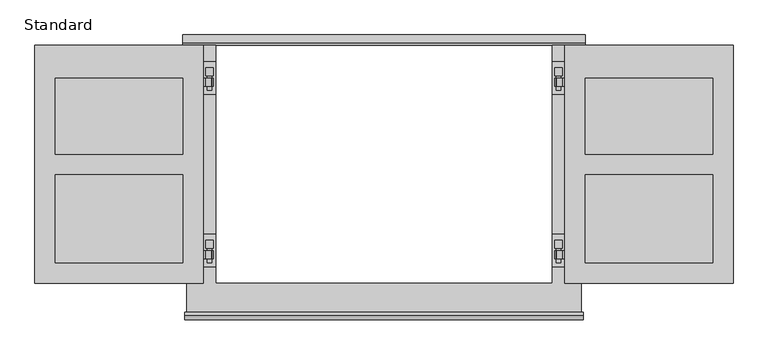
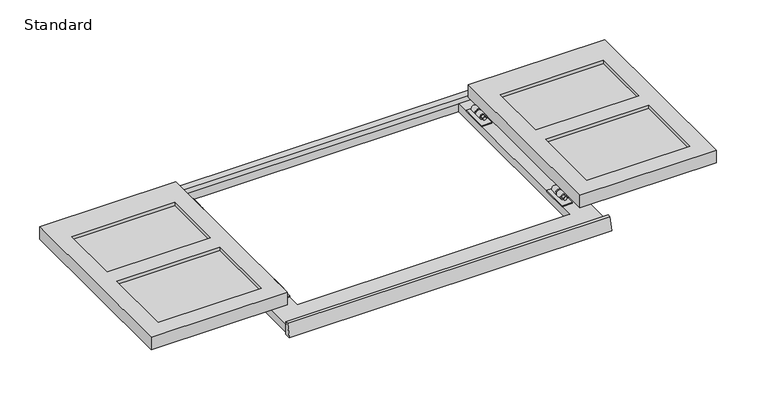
"""IFC4 building model written with IfcOpenShell, lengths in millimetres: proxy geometry, Shutters-Trim-Window-Exterior-Flat-Decorative_Drip_Cap-Cape_Cod : Standard."""

from ifc_helpers import new_model, si_unit, point, frame, frame_2d, origin, origin_with_axes, place, context, project, spatial, polyline, circle_curve, trimmed, segment, composite_curve, outline, extrude, source, transform, mapped, element, save
from ifc_brep_helpers import plane_surface, cylinder_surface, revolved_surface, advanced_brep


def standard_8dc5469e(model_context):
    return source(origin(), model_context, "Body", "SolidModel", [
        extrude(outline(polyline([(-1079.5, 0.0), (-1079.5, 736.6), (-558.8, 736.6), (-558.8, 0.0), (-1079.5, 0.0)]), holes=[polyline([(-1016.0, 63.5), (-622.3, 63.5), (-622.3, 336.55), (-1016.0, 336.55), (-1016.0, 63.5)]), polyline([(-622.3, 400.05), (-622.3, 635.0), (-1016.0, 635.0), (-1016.0, 400.05), (-622.3, 400.05)])]), frame((0.0, 0.0, 44.45), z_axis=(0.0, 0.0, 1.0), x_axis=(1.0, 0.0, 0.0)), (0.0, 0.0, 1.0), 50.8),
        extrude(outline(polyline([(-1016.0, 63.5), (-1016.0, 336.55), (-622.3, 336.55), (-622.3, 63.5), (-1016.0, 63.5)])), frame((0.0, 0.0, 57.15), z_axis=(0.0, 0.0, 1.0), x_axis=(1.0, 0.0, 0.0)), (0.0, 0.0, 1.0), 25.4),
        extrude(outline(polyline([(-622.3, 400.05), (-1016.0, 400.05), (-1016.0, 635.0), (-622.3, 635.0), (-622.3, 400.05)])), frame((0.0, 0.0, 57.15), z_axis=(0.0, 0.0, 1.0), x_axis=(1.0, 0.0, 0.0)), (0.0, 0.0, 1.0), 25.4),
        extrude(outline(polyline([(1079.5, 0.0), (558.8, 0.0), (558.8, 736.6), (1079.5, 736.6), (1079.5, 0.0)]), holes=[polyline([(1016.0, 63.5), (1016.0, 336.55), (622.3, 336.55), (622.3, 63.5), (1016.0, 63.5)]), polyline([(622.3, 400.05), (1016.0, 400.05), (1016.0, 635.0), (622.3, 635.0), (622.3, 400.05)])]), frame((0.0, 0.0, 44.45), z_axis=(0.0, 0.0, 1.0), x_axis=(1.0, 0.0, 0.0)), (0.0, 0.0, 1.0), 50.8),
        extrude(outline(polyline([(1016.0, 63.5), (622.3, 63.5), (622.3, 336.55), (1016.0, 336.55), (1016.0, 63.5)])), frame((0.0, 0.0, 57.15), z_axis=(0.0, 0.0, 1.0), x_axis=(1.0, 0.0, 0.0)), (0.0, 0.0, 1.0), 25.4),
        extrude(outline(polyline([(622.3, 400.05), (622.3, 635.0), (1016.0, 635.0), (1016.0, 400.05), (622.3, 400.05)])), frame((0.0, 0.0, 57.15), z_axis=(0.0, 0.0, 1.0), x_axis=(1.0, 0.0, 0.0)), (0.0, 0.0, 1.0), 25.4),
        extrude(outline(polyline([(-558.8, 584.2), (-558.8, 685.8), (-520.7, 685.8), (-520.7, 584.2), (-558.8, 584.2)])), frame((0.0, 0.0, 31.75), z_axis=(0.0, 0.0, 1.0), x_axis=(1.0, 0.0, 0.0)), (0.0, 0.0, 1.0), 4.7625),
        advanced_brep(
        [(-604.8375, 596.9, 44.45), (-604.8375, 596.9, 39.6875), (-579.374, 596.9, 39.6875), (-579.374, 596.9, 44.45), (-604.8375, 647.7, 39.6875), (-604.8375, 647.7, 44.45), (-579.374, 647.7, 44.45), (-579.374, 647.7, 39.6875), (-579.374, 635.0, 39.6875), (-539.75, 635.0, 39.6875), (-539.75, 609.6, 39.6875), (-579.374, 609.6, 39.6875), (-579.374, 609.6, 44.45), (-539.75, 609.6, 44.45), (-539.75, 635.0, 44.45), (-579.374, 635.0, 44.45), (-546.1, 635.0, 50.8), (-546.1, 609.6, 50.8), (-546.1, 635.0, 46.0375), (-546.1, 609.6, 46.0375), (-550.8625, 635.0, 46.0375), (-550.8625, 609.6, 46.0375), (-550.8625, 635.0, 50.8), (-550.8625, 609.6, 50.8)],
        [
            (0, 1),
            (1, 2),
            (2, 3),
            (3, 0),
            (4, 5),
            (5, 6),
            (6, 7),
            (7, 4),
            (1, 4),
            (7, 8),
            (8, 9),
            (9, 10),
            (10, 11),
            (11, 2),
            (0, 5),
            (3, 12),
            (12, 13),
            (13, 14),
            (14, 15),
            (15, 6),
            (16, 14, circle_curve(frame((-539.75, 635.0, 50.8), z_axis=(0.0, 1.0, 0.0), x_axis=(1.0, 0.0, 0.0)), 6.35)),
            (13, 17, circle_curve(frame((-539.75, 609.6, 50.8), z_axis=(0.0, -1.0, 0.0), x_axis=(1.0, 0.0, 0.0)), 6.35)),
            (17, 16),
            (18, 16),
            (17, 19),
            (19, 18),
            (20, 18),
            (19, 21),
            (21, 20),
            (22, 20),
            (21, 23),
            (23, 22),
            (9, 22, circle_curve(frame((-539.75, 635.0, 50.8), z_axis=(0.0, -1.0, 0.0), x_axis=(1.0, 0.0, 0.0)), 11.1125)),
            (23, 10, circle_curve(frame((-539.75, 609.6, 50.8), z_axis=(0.0, 1.0, 0.0), x_axis=(1.0, 0.0, 0.0)), 11.1125)),
            (8, 15),
            (12, 11),
        ],
        [
            plane_surface(frame((-539.75, 596.9, 50.8), z_axis=(0.0, -1.0, 0.0), x_axis=(0.0, 0.0, 1.0))),
            plane_surface(frame((-539.75, 647.7, 50.8), z_axis=(0.0, 1.0, 0.0), x_axis=(0.0, 0.0, 1.0))),
            plane_surface(frame((-604.8375, 596.9, 39.6875), z_axis=(0.0, 0.0, -1.0), x_axis=(0.0, 1.0, 0.0))),
            plane_surface(frame((-604.8375, 596.9, 44.45), z_axis=(-1.0, 0.0, 0.0), x_axis=(0.0, 1.0, 0.0))),
            plane_surface(frame((-539.75, 596.9, 44.45), z_axis=(0.0, 0.0, 1.0), x_axis=(0.0, 1.0, 0.0))),
            revolved_surface(polyline([(-533.4, 635.0, 50.8), (-533.4, 609.6, 50.8)]), (-539.75, 596.9, 50.8), (0.0, 1.0, 0.0)),
            plane_surface(frame((-546.1, 596.9, 46.0375), z_axis=(1.0, 0.0, 0.0), x_axis=(0.0, 1.0, 0.0))),
            plane_surface(frame((-550.8625, 596.9, 46.0375), z_axis=(0.0, 0.0, -1.0), x_axis=(0.0, 1.0, 0.0))),
            plane_surface(frame((-550.8625, 596.9, 50.8), z_axis=(-1.0, 0.0, 0.0), x_axis=(0.0, 1.0, 0.0))),
            cylinder_surface(frame((-539.75, 596.9, 50.8), z_axis=(0.0, -1.0, 0.0), x_axis=(1.0, 0.0, 0.0)), 11.1125),
            plane_surface(frame((-539.75, 635.0, 50.8), z_axis=(0.0, 1.0, 0.0), x_axis=(0.0, 0.0, 1.0))),
            plane_surface(frame((-579.374, 635.0, 44.45), z_axis=(1.0, 0.0, 0.0), x_axis=(0.0, 1.0, 0.0))),
            plane_surface(frame((-539.75, 609.6, 50.8), z_axis=(0.0, -1.0, 0.0), x_axis=(0.0, 0.0, 1.0))),
            plane_surface(frame((-579.374, 596.9, 44.45), z_axis=(1.0, 0.0, 0.0), x_axis=(0.0, 1.0, 0.0))),
        ],
        [
            (0, [[1, 2, 3, 4]]),
            (1, [[5, 6, 7, 8]]),
            (2, [[9, -8, 10, 11, 12, 13, 14, -2]]),
            (3, [[-1, 15, -5, -9]]),
            (4, [[-15, -4, 16, 17, 18, 19, 20, -6]]),
            (5, [[21, -18, 22, 23]]),
            (6, [[24, -23, 25, 26]]),
            (7, [[27, -26, 28, 29]]),
            (8, [[30, -29, 31, 32]]),
            (9, [[33, -32, 34, -12]]),
            (10, [[35, -19, -21, -24, -27, -30, -33, -11]]),
            (11, [[-35, -10, -7, -20]]),
            (12, [[36, -13, -34, -31, -28, -25, -22, -17]]),
            (13, [[-36, -16, -3, -14]]),
        ],
    ),
        advanced_brep(
        [(-542.13125, 641.35, 36.5125), (-537.36875, 641.35, 36.5125), (-537.36875, 641.35, 39.945632), (-542.13125, 641.35, 39.945632), (-533.4, 641.35, 50.8), (-546.1, 641.35, 50.8), (-542.13125, 666.75, 36.5125), (-542.13125, 666.75, 39.945632), (-537.36875, 666.75, 39.945632), (-537.36875, 666.75, 36.5125), (-546.1, 596.9, 50.8), (-533.4, 596.9, 50.8)],
        [
            (0, 1),
            (1, 2),
            (2, 3, circle_curve(frame((-539.75, 641.35, 50.8), z_axis=(0.0, -1.0, 0.0), x_axis=(1.0, 0.0, 0.0)), 11.1125)),
            (3, 0),
            (4, 5, circle_curve(frame((-539.75, 641.35, 50.8), z_axis=(0.0, 1.0, 0.0), x_axis=(1.0, 0.0, 0.0)), 6.35)),
            (5, 4, circle_curve(frame((-539.75, 641.35, 50.8), z_axis=(0.0, 1.0, 0.0), x_axis=(1.0, 0.0, 0.0)), 6.35)),
            (6, 7),
            (7, 8, circle_curve(frame((-539.75, 666.75, 50.8), z_axis=(0.0, 1.0, 0.0), x_axis=(1.0, 0.0, 0.0)), 11.1125)),
            (8, 9),
            (9, 6),
            (3, 7),
            (6, 0),
            (9, 1),
            (8, 2),
            (10, 11, circle_curve(frame((-539.75, 596.9, 50.8), z_axis=(0.0, -1.0, 0.0), x_axis=(1.0, 0.0, 0.0)), 6.35)),
            (11, 10, circle_curve(frame((-539.75, 596.9, 50.8), z_axis=(0.0, -1.0, 0.0), x_axis=(1.0, 0.0, 0.0)), 6.35)),
            (10, 5),
            (4, 11),
        ],
        [
            plane_surface(frame((-537.36875, 641.35, 36.5125), z_axis=(0.0, -1.0, 0.0), x_axis=(1.0, 0.0, 6.23955382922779e-12))),
            plane_surface(frame((-537.36875, 666.75, 36.5125), z_axis=(0.0, 1.0, 0.0), x_axis=(-1.0, 0.0, -6.23955382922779e-12))),
            plane_surface(frame((-542.13125, 641.35, 39.945632), z_axis=(-1.0, 0.0, 0.0), x_axis=(0.0, 1.0, 0.0))),
            plane_surface(frame((-542.13125, 641.35, 36.5125), z_axis=(6.23955382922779e-12, 0.0, -1.0), x_axis=(0.0, 1.0, 0.0))),
            plane_surface(frame((-537.36875, 641.35, 36.5125), z_axis=(1.0, 0.0, 0.0), x_axis=(0.0, 1.0, 0.0))),
            cylinder_surface(frame((-539.75, 666.75, 50.8), z_axis=(0.0, -1.0, 0.0), x_axis=(1.0, 0.0, 0.0)), 11.1125),
            plane_surface(frame((-533.4, 596.9, 50.8), z_axis=(0.0, -1.0, 0.0), x_axis=(0.0, 0.0, 1.0))),
            cylinder_surface(frame((-539.75, 666.75, 50.8), z_axis=(0.0, -1.0, 0.0), x_axis=(1.0, 0.0, 0.0)), 6.35),
        ],
        [
            (0, [[1, 2, 3, 4], [5, 6]]),
            (1, [[7, 8, 9, 10]]),
            (2, [[-4, 11, -7, 12]]),
            (3, [[-1, -12, -10, 13]]),
            (4, [[-2, -13, -9, 14]]),
            (5, [[-3, -14, -8, -11]]),
            (6, [[15, 16]]),
            (7, [[-15, 17, -5, 18]]),
            (7, [[-16, -18, -6, -17]]),
        ],
    ),
        extrude(outline(polyline([(558.8, 584.2), (520.7, 584.2), (520.7, 685.8), (558.8, 685.8), (558.8, 584.2)])), frame((0.0, 0.0, 31.75), z_axis=(0.0, 0.0, 1.0), x_axis=(1.0, 0.0, 0.0)), (0.0, 0.0, 1.0), 4.7625),
        advanced_brep(
        [(604.8375, 596.9, 44.45), (579.374, 596.9, 44.45), (579.374, 596.9, 39.6875), (604.8375, 596.9, 39.6875), (604.8375, 647.7, 39.6875), (579.374, 647.7, 39.6875), (579.374, 647.7, 44.45), (604.8375, 647.7, 44.45), (579.374, 609.6, 39.6875), (539.75, 609.6, 39.6875), (539.75, 635.0, 39.6875), (579.374, 635.0, 39.6875), (579.374, 635.0, 44.45), (539.75, 635.0, 44.45), (539.75, 609.6, 44.45), (579.374, 609.6, 44.45), (546.1, 635.0, 50.8), (546.1, 609.6, 50.8), (546.1, 635.0, 46.0375), (546.1, 609.6, 46.0375), (550.8625, 635.0, 46.0375), (550.8625, 609.6, 46.0375), (550.8625, 635.0, 50.8), (550.8625, 609.6, 50.8)],
        [
            (0, 1),
            (1, 2),
            (2, 3),
            (3, 0),
            (4, 5),
            (5, 6),
            (6, 7),
            (7, 4),
            (2, 8),
            (8, 9),
            (9, 10),
            (10, 11),
            (11, 5),
            (4, 3),
            (7, 0),
            (6, 12),
            (12, 13),
            (13, 14),
            (14, 15),
            (15, 1),
            (16, 17),
            (17, 14, circle_curve(frame((539.75, 609.6, 50.8), z_axis=(0.0, -1.0, 0.0), x_axis=(-1.0, 0.0, 0.0)), 6.35)),
            (13, 16, circle_curve(frame((539.75, 635.0, 50.8), z_axis=(0.0, 1.0, 0.0), x_axis=(-1.0, 0.0, 0.0)), 6.35)),
            (18, 19),
            (19, 17),
            (16, 18),
            (20, 21),
            (21, 19),
            (18, 20),
            (22, 23),
            (23, 21),
            (20, 22),
            (9, 23, circle_curve(frame((539.75, 609.6, 50.8), z_axis=(0.0, 1.0, 0.0), x_axis=(-1.0, 0.0, 0.0)), 11.1125)),
            (22, 10, circle_curve(frame((539.75, 635.0, 50.8), z_axis=(0.0, -1.0, 0.0), x_axis=(-1.0, 0.0, 0.0)), 11.1125)),
            (12, 11),
            (8, 15),
        ],
        [
            plane_surface(frame((539.75, 596.9, 50.8), z_axis=(0.0, -1.0, 0.0), x_axis=(0.0, 0.0, 1.0))),
            plane_surface(frame((539.75, 647.7, 50.8), z_axis=(0.0, 1.0, 0.0), x_axis=(0.0, 0.0, 1.0))),
            plane_surface(frame((604.8375, 596.9, 39.6875), z_axis=(0.0, 0.0, -1.0), x_axis=(0.0, 1.0, 0.0))),
            plane_surface(frame((604.8375, 596.9, 44.45), z_axis=(1.0, 0.0, 0.0), x_axis=(0.0, 1.0, 0.0))),
            plane_surface(frame((539.75, 596.9, 44.45), z_axis=(0.0, 0.0, 1.0), x_axis=(0.0, 1.0, 0.0))),
            revolved_surface(polyline([(533.4, 635.0, 50.8), (533.4, 609.6, 50.8)]), (539.75, 596.9, 50.8), (0.0, 1.0, 0.0)),
            plane_surface(frame((546.1, 596.9, 46.0375), z_axis=(-1.0, 0.0, 0.0), x_axis=(0.0, 1.0, 0.0))),
            plane_surface(frame((550.8625, 596.9, 46.0375), z_axis=(0.0, 0.0, -1.0), x_axis=(0.0, 1.0, 0.0))),
            plane_surface(frame((550.8625, 596.9, 50.8), z_axis=(1.0, 0.0, 0.0), x_axis=(0.0, 1.0, 0.0))),
            cylinder_surface(frame((539.75, 596.9, 50.8), z_axis=(0.0, -1.0, 0.0), x_axis=(-1.0, 0.0, 0.0)), 11.1125),
            plane_surface(frame((539.75, 635.0, 50.8), z_axis=(0.0, 1.0, 0.0), x_axis=(0.0, 0.0, 1.0))),
            plane_surface(frame((579.374, 635.0, 44.45), z_axis=(-1.0, 0.0, 0.0), x_axis=(0.0, 1.0, 0.0))),
            plane_surface(frame((539.75, 609.6, 50.8), z_axis=(0.0, -1.0, 0.0), x_axis=(0.0, 0.0, 1.0))),
            plane_surface(frame((579.374, 596.9, 44.45), z_axis=(-1.0, 0.0, 0.0), x_axis=(0.0, 1.0, 0.0))),
        ],
        [
            (0, [[1, 2, 3, 4]]),
            (1, [[5, 6, 7, 8]]),
            (2, [[-3, 9, 10, 11, 12, 13, -5, 14]]),
            (3, [[-14, -8, 15, -4]]),
            (4, [[-7, 16, 17, 18, 19, 20, -1, -15]]),
            (5, [[21, 22, -18, 23]]),
            (6, [[24, 25, -21, 26]]),
            (7, [[27, 28, -24, 29]]),
            (8, [[30, 31, -27, 32]]),
            (9, [[-11, 33, -30, 34]]),
            (10, [[-12, -34, -32, -29, -26, -23, -17, 35]]),
            (11, [[-16, -6, -13, -35]]),
            (12, [[-19, -22, -25, -28, -31, -33, -10, 36]]),
            (13, [[-9, -2, -20, -36]]),
        ],
    ),
        advanced_brep(
        [(542.13125, 641.35, 36.5125), (542.13125, 641.35, 39.945632), (537.36875, 641.35, 39.945632), (537.36875, 641.35, 36.5125), (533.4, 641.35, 50.8), (546.1, 641.35, 50.8), (542.13125, 666.75, 36.5125), (537.36875, 666.75, 36.5125), (537.36875, 666.75, 39.945632), (542.13125, 666.75, 39.945632), (546.1, 596.9, 50.8), (533.4, 596.9, 50.8)],
        [
            (0, 1),
            (1, 2, circle_curve(frame((539.75, 641.35, 50.8), z_axis=(0.0, -1.0, 0.0), x_axis=(-1.0, 0.0, 0.0)), 11.1125)),
            (2, 3),
            (3, 0),
            (4, 5, circle_curve(frame((539.75, 641.35, 50.8), z_axis=(0.0, 1.0, 0.0), x_axis=(-1.0, 0.0, 0.0)), 6.35)),
            (5, 4, circle_curve(frame((539.75, 641.35, 50.8), z_axis=(0.0, 1.0, 0.0), x_axis=(-1.0, 0.0, 0.0)), 6.35)),
            (6, 7),
            (7, 8),
            (8, 9, circle_curve(frame((539.75, 666.75, 50.8), z_axis=(0.0, 1.0, 0.0), x_axis=(-1.0, 0.0, 0.0)), 11.1125)),
            (9, 6),
            (0, 6),
            (9, 1),
            (3, 7),
            (2, 8),
            (10, 11, circle_curve(frame((539.75, 596.9, 50.8), z_axis=(0.0, -1.0, 0.0), x_axis=(-1.0, 0.0, 0.0)), 6.35)),
            (11, 10, circle_curve(frame((539.75, 596.9, 50.8), z_axis=(0.0, -1.0, 0.0), x_axis=(-1.0, 0.0, 0.0)), 6.35)),
            (11, 4),
            (5, 10),
        ],
        [
            plane_surface(frame((537.36875, 641.35, 36.5125), z_axis=(0.0, -1.0, 0.0), x_axis=(-1.0, 0.0, 6.246014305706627e-12))),
            plane_surface(frame((537.36875, 666.75, 36.5125), z_axis=(0.0, 1.0, 0.0), x_axis=(1.0, 0.0, -6.246014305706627e-12))),
            plane_surface(frame((542.13125, 641.35, 39.945632), z_axis=(1.0, 0.0, 0.0), x_axis=(0.0, 1.0, 0.0))),
            plane_surface(frame((542.13125, 641.35, 36.5125), z_axis=(-6.246014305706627e-12, 0.0, -1.0), x_axis=(0.0, 1.0, 0.0))),
            plane_surface(frame((537.36875, 641.35, 36.5125), z_axis=(-1.0, 0.0, 0.0), x_axis=(0.0, 1.0, 0.0))),
            cylinder_surface(frame((539.75, 666.75, 50.8), z_axis=(0.0, -1.0, 0.0), x_axis=(-1.0, 0.0, 0.0)), 11.1125),
            plane_surface(frame((533.4, 596.9, 50.8), z_axis=(0.0, -1.0, 0.0), x_axis=(0.0, 0.0, 1.0))),
            cylinder_surface(frame((539.75, 666.75, 50.8), z_axis=(0.0, -1.0, 0.0), x_axis=(-1.0, 0.0, 0.0)), 6.35),
        ],
        [
            (0, [[1, 2, 3, 4], [5, 6]]),
            (1, [[7, 8, 9, 10]]),
            (2, [[11, -10, 12, -1]]),
            (3, [[13, -7, -11, -4]]),
            (4, [[14, -8, -13, -3]]),
            (5, [[-12, -9, -14, -2]]),
            (6, [[15, 16]]),
            (7, [[17, -6, 18, -16]]),
            (7, [[-18, -5, -17, -15]]),
        ],
    ),
        extrude(outline(polyline([(558.8, 50.8), (520.7, 50.8), (520.7, 152.4), (558.8, 152.4), (558.8, 50.8)])), frame((0.0, 0.0, 31.75), z_axis=(0.0, 0.0, 1.0), x_axis=(1.0, 0.0, 0.0)), (0.0, 0.0, 1.0), 4.7625),
        advanced_brep(
        [(604.8375, 63.5, 44.45), (579.374, 63.5, 44.45), (579.374, 63.5, 39.6875), (604.8375, 63.5, 39.6875), (604.8375, 114.3, 39.6875), (579.374, 114.3, 39.6875), (579.374, 114.3, 44.45), (604.8375, 114.3, 44.45), (579.374, 76.2, 39.6875), (539.75, 76.2, 39.6875), (539.75, 101.6, 39.6875), (579.374, 101.6, 39.6875), (579.374, 101.6, 44.45), (539.75, 101.6, 44.45), (539.75, 76.2, 44.45), (579.374, 76.2, 44.45), (546.1, 101.6, 50.8), (546.1, 76.2, 50.8), (546.1, 101.6, 46.0375), (546.1, 76.2, 46.0375), (550.8625, 101.6, 46.0375), (550.8625, 76.2, 46.0375), (550.8625, 101.6, 50.8), (550.8625, 76.2, 50.8)],
        [
            (0, 1),
            (1, 2),
            (2, 3),
            (3, 0),
            (4, 5),
            (5, 6),
            (6, 7),
            (7, 4),
            (2, 8),
            (8, 9),
            (9, 10),
            (10, 11),
            (11, 5),
            (4, 3),
            (7, 0),
            (6, 12),
            (12, 13),
            (13, 14),
            (14, 15),
            (15, 1),
            (16, 17),
            (17, 14, circle_curve(frame((539.75, 76.2, 50.8), z_axis=(0.0, -1.0, 0.0), x_axis=(-1.0, 0.0, 0.0)), 6.35)),
            (13, 16, circle_curve(frame((539.75, 101.6, 50.8), z_axis=(0.0, 1.0, 0.0), x_axis=(-1.0, 0.0, 0.0)), 6.35)),
            (18, 19),
            (19, 17),
            (16, 18),
            (20, 21),
            (21, 19),
            (18, 20),
            (22, 23),
            (23, 21),
            (20, 22),
            (9, 23, circle_curve(frame((539.75, 76.2, 50.8), z_axis=(0.0, 1.0, 0.0), x_axis=(-1.0, 0.0, 0.0)), 11.1125)),
            (22, 10, circle_curve(frame((539.75, 101.6, 50.8), z_axis=(0.0, -1.0, 0.0), x_axis=(-1.0, 0.0, 0.0)), 11.1125)),
            (12, 11),
            (8, 15),
        ],
        [
            plane_surface(frame((539.75, 63.5, 50.8), z_axis=(0.0, -1.0, 0.0), x_axis=(0.0, 0.0, 1.0))),
            plane_surface(frame((539.75, 114.3, 50.8), z_axis=(0.0, 1.0, 0.0), x_axis=(0.0, 0.0, 1.0))),
            plane_surface(frame((604.8375, 63.5, 39.6875), z_axis=(0.0, 0.0, -1.0), x_axis=(0.0, 1.0, 0.0))),
            plane_surface(frame((604.8375, 63.5, 44.45), z_axis=(1.0, 0.0, 0.0), x_axis=(0.0, 1.0, 0.0))),
            plane_surface(frame((539.75, 63.5, 44.45), z_axis=(0.0, 0.0, 1.0), x_axis=(0.0, 1.0, 0.0))),
            revolved_surface(polyline([(533.4, 101.6, 50.8), (533.4, 76.2, 50.8)]), (539.75, 63.5, 50.8), (0.0, 1.0, 0.0)),
            plane_surface(frame((546.1, 63.5, 46.0375), z_axis=(-1.0, 0.0, 0.0), x_axis=(0.0, 1.0, 0.0))),
            plane_surface(frame((550.8625, 63.5, 46.0375), z_axis=(0.0, 0.0, -1.0), x_axis=(0.0, 1.0, 0.0))),
            plane_surface(frame((550.8625, 63.5, 50.8), z_axis=(1.0, 0.0, 0.0), x_axis=(0.0, 1.0, 0.0))),
            cylinder_surface(frame((539.75, 63.5, 50.8), z_axis=(0.0, -1.0, 0.0), x_axis=(-1.0, 0.0, 0.0)), 11.1125),
            plane_surface(frame((539.75, 101.6, 50.8), z_axis=(0.0, 1.0, 0.0), x_axis=(0.0, 0.0, 1.0))),
            plane_surface(frame((579.374, 101.6, 44.45), z_axis=(-1.0, 0.0, 0.0), x_axis=(0.0, 1.0, 0.0))),
            plane_surface(frame((539.75, 76.2, 50.8), z_axis=(0.0, -1.0, 0.0), x_axis=(0.0, 0.0, 1.0))),
            plane_surface(frame((579.374, 63.5, 44.45), z_axis=(-1.0, 0.0, 0.0), x_axis=(0.0, 1.0, 0.0))),
        ],
        [
            (0, [[1, 2, 3, 4]]),
            (1, [[5, 6, 7, 8]]),
            (2, [[-3, 9, 10, 11, 12, 13, -5, 14]]),
            (3, [[-14, -8, 15, -4]]),
            (4, [[-7, 16, 17, 18, 19, 20, -1, -15]]),
            (5, [[21, 22, -18, 23]]),
            (6, [[24, 25, -21, 26]]),
            (7, [[27, 28, -24, 29]]),
            (8, [[30, 31, -27, 32]]),
            (9, [[-11, 33, -30, 34]]),
            (10, [[-12, -34, -32, -29, -26, -23, -17, 35]]),
            (11, [[-16, -6, -13, -35]]),
            (12, [[-19, -22, -25, -28, -31, -33, -10, 36]]),
            (13, [[-9, -2, -20, -36]]),
        ],
    ),
        advanced_brep(
        [(542.13125, 107.95, 36.5125), (542.13125, 107.95, 39.945632), (537.36875, 107.95, 39.945632), (537.36875, 107.95, 36.5125), (533.4, 107.95, 50.8), (546.1, 107.95, 50.8), (542.13125, 133.35, 36.5125), (537.36875, 133.35, 36.5125), (537.36875, 133.35, 39.945632), (542.13125, 133.35, 39.945632), (546.1, 63.5, 50.8), (533.4, 63.5, 50.8)],
        [
            (0, 1),
            (1, 2, circle_curve(frame((539.75, 107.95, 50.8), z_axis=(0.0, -1.0, 0.0), x_axis=(-1.0, 0.0, 0.0)), 11.1125)),
            (2, 3),
            (3, 0),
            (4, 5, circle_curve(frame((539.75, 107.95, 50.8), z_axis=(0.0, 1.0, 0.0), x_axis=(-1.0, 0.0, 0.0)), 6.35)),
            (5, 4, circle_curve(frame((539.75, 107.95, 50.8), z_axis=(0.0, 1.0, 0.0), x_axis=(-1.0, 0.0, 0.0)), 6.35)),
            (6, 7),
            (7, 8),
            (8, 9, circle_curve(frame((539.75, 133.35, 50.8), z_axis=(0.0, 1.0, 0.0), x_axis=(-1.0, 0.0, 0.0)), 11.1125)),
            (9, 6),
            (0, 6),
            (9, 1),
            (3, 7),
            (2, 8),
            (10, 11, circle_curve(frame((539.75, 63.5, 50.8), z_axis=(0.0, -1.0, 0.0), x_axis=(-1.0, 0.0, 0.0)), 6.35)),
            (11, 10, circle_curve(frame((539.75, 63.5, 50.8), z_axis=(0.0, -1.0, 0.0), x_axis=(-1.0, 0.0, 0.0)), 6.35)),
            (11, 4),
            (5, 10),
        ],
        [
            plane_surface(frame((537.36875, 107.95, 36.5125), z_axis=(0.0, -1.0, 0.0), x_axis=(-1.0, 0.0, 6.246014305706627e-12))),
            plane_surface(frame((537.36875, 133.35, 36.5125), z_axis=(0.0, 1.0, 0.0), x_axis=(1.0, 0.0, -6.246014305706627e-12))),
            plane_surface(frame((542.13125, 107.95, 39.945632), z_axis=(1.0, 0.0, 0.0), x_axis=(0.0, 1.0, 0.0))),
            plane_surface(frame((542.13125, 107.95, 36.5125), z_axis=(-6.246014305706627e-12, 0.0, -1.0), x_axis=(0.0, 1.0, 0.0))),
            plane_surface(frame((537.36875, 107.95, 36.5125), z_axis=(-1.0, 0.0, 0.0), x_axis=(0.0, 1.0, 0.0))),
            cylinder_surface(frame((539.75, 133.35, 50.8), z_axis=(0.0, -1.0, 0.0), x_axis=(-1.0, 0.0, 0.0)), 11.1125),
            plane_surface(frame((533.4, 63.5, 50.8), z_axis=(0.0, -1.0, 0.0), x_axis=(0.0, 0.0, 1.0))),
            cylinder_surface(frame((539.75, 133.35, 50.8), z_axis=(0.0, -1.0, 0.0), x_axis=(-1.0, 0.0, 0.0)), 6.35),
        ],
        [
            (0, [[1, 2, 3, 4], [5, 6]]),
            (1, [[7, 8, 9, 10]]),
            (2, [[11, -10, 12, -1]]),
            (3, [[13, -7, -11, -4]]),
            (4, [[14, -8, -13, -3]]),
            (5, [[-12, -9, -14, -2]]),
            (6, [[15, 16]]),
            (7, [[17, -6, 18, -16]]),
            (7, [[-18, -5, -17, -15]]),
        ],
    ),
        extrude(outline(polyline([(-558.8, 50.8), (-558.8, 152.4), (-520.7, 152.4), (-520.7, 50.8), (-558.8, 50.8)])), frame((0.0, 0.0, 31.75), z_axis=(0.0, 0.0, 1.0), x_axis=(1.0, 0.0, 0.0)), (0.0, 0.0, 1.0), 4.7625),
        advanced_brep(
        [(-604.8375, 63.5, 44.45), (-604.8375, 63.5, 39.6875), (-579.374, 63.5, 39.6875), (-579.374, 63.5, 44.45), (-604.8375, 114.3, 39.6875), (-604.8375, 114.3, 44.45), (-579.374, 114.3, 44.45), (-579.374, 114.3, 39.6875), (-579.374, 101.6, 39.6875), (-539.75, 101.6, 39.6875), (-539.75, 76.2, 39.6875), (-579.374, 76.2, 39.6875), (-579.374, 76.2, 44.45), (-539.75, 76.2, 44.45), (-539.75, 101.6, 44.45), (-579.374, 101.6, 44.45), (-546.1, 101.6, 50.8), (-546.1, 76.2, 50.8), (-546.1, 101.6, 46.0375), (-546.1, 76.2, 46.0375), (-550.8625, 101.6, 46.0375), (-550.8625, 76.2, 46.0375), (-550.8625, 101.6, 50.8), (-550.8625, 76.2, 50.8)],
        [
            (0, 1),
            (1, 2),
            (2, 3),
            (3, 0),
            (4, 5),
            (5, 6),
            (6, 7),
            (7, 4),
            (1, 4),
            (7, 8),
            (8, 9),
            (9, 10),
            (10, 11),
            (11, 2),
            (0, 5),
            (3, 12),
            (12, 13),
            (13, 14),
            (14, 15),
            (15, 6),
            (16, 14, circle_curve(frame((-539.75, 101.6, 50.8), z_axis=(0.0, 1.0, 0.0), x_axis=(1.0, 0.0, 0.0)), 6.35)),
            (13, 17, circle_curve(frame((-539.75, 76.2, 50.8), z_axis=(0.0, -1.0, 0.0), x_axis=(1.0, 0.0, 0.0)), 6.35)),
            (17, 16),
            (18, 16),
            (17, 19),
            (19, 18),
            (20, 18),
            (19, 21),
            (21, 20),
            (22, 20),
            (21, 23),
            (23, 22),
            (9, 22, circle_curve(frame((-539.75, 101.6, 50.8), z_axis=(0.0, -1.0, 0.0), x_axis=(1.0, 0.0, 0.0)), 11.1125)),
            (23, 10, circle_curve(frame((-539.75, 76.2, 50.8), z_axis=(0.0, 1.0, 0.0), x_axis=(1.0, 0.0, 0.0)), 11.1125)),
            (8, 15),
            (12, 11),
        ],
        [
            plane_surface(frame((-539.75, 63.5, 50.8), z_axis=(0.0, -1.0, 0.0), x_axis=(0.0, 0.0, 1.0))),
            plane_surface(frame((-539.75, 114.3, 50.8), z_axis=(0.0, 1.0, 0.0), x_axis=(0.0, 0.0, 1.0))),
            plane_surface(frame((-604.8375, 63.5, 39.6875), z_axis=(0.0, 0.0, -1.0), x_axis=(0.0, 1.0, 0.0))),
            plane_surface(frame((-604.8375, 63.5, 44.45), z_axis=(-1.0, 0.0, 0.0), x_axis=(0.0, 1.0, 0.0))),
            plane_surface(frame((-539.75, 63.5, 44.45), z_axis=(0.0, 0.0, 1.0), x_axis=(0.0, 1.0, 0.0))),
            revolved_surface(polyline([(-533.4, 101.6, 50.8), (-533.4, 76.2, 50.8)]), (-539.75, 63.5, 50.8), (0.0, 1.0, 0.0)),
            plane_surface(frame((-546.1, 63.5, 46.0375), z_axis=(1.0, 0.0, 0.0), x_axis=(0.0, 1.0, 0.0))),
            plane_surface(frame((-550.8625, 63.5, 46.0375), z_axis=(0.0, 0.0, -1.0), x_axis=(0.0, 1.0, 0.0))),
            plane_surface(frame((-550.8625, 63.5, 50.8), z_axis=(-1.0, 0.0, 0.0), x_axis=(0.0, 1.0, 0.0))),
            cylinder_surface(frame((-539.75, 63.5, 50.8), z_axis=(0.0, -1.0, 0.0), x_axis=(1.0, 0.0, 0.0)), 11.1125),
            plane_surface(frame((-539.75, 101.6, 50.8), z_axis=(0.0, 1.0, 0.0), x_axis=(0.0, 0.0, 1.0))),
            plane_surface(frame((-579.374, 101.6, 44.45), z_axis=(1.0, 0.0, 0.0), x_axis=(0.0, 1.0, 0.0))),
            plane_surface(frame((-539.75, 76.2, 50.8), z_axis=(0.0, -1.0, 0.0), x_axis=(0.0, 0.0, 1.0))),
            plane_surface(frame((-579.374, 63.5, 44.45), z_axis=(1.0, 0.0, 0.0), x_axis=(0.0, 1.0, 0.0))),
        ],
        [
            (0, [[1, 2, 3, 4]]),
            (1, [[5, 6, 7, 8]]),
            (2, [[9, -8, 10, 11, 12, 13, 14, -2]]),
            (3, [[-1, 15, -5, -9]]),
            (4, [[-15, -4, 16, 17, 18, 19, 20, -6]]),
            (5, [[21, -18, 22, 23]]),
            (6, [[24, -23, 25, 26]]),
            (7, [[27, -26, 28, 29]]),
            (8, [[30, -29, 31, 32]]),
            (9, [[33, -32, 34, -12]]),
            (10, [[35, -19, -21, -24, -27, -30, -33, -11]]),
            (11, [[-35, -10, -7, -20]]),
            (12, [[36, -13, -34, -31, -28, -25, -22, -17]]),
            (13, [[-36, -16, -3, -14]]),
        ],
    ),
        advanced_brep(
        [(-542.13125, 107.95, 36.5125), (-537.36875, 107.95, 36.5125), (-537.36875, 107.95, 39.945632), (-542.13125, 107.95, 39.945632), (-533.4, 107.95, 50.8), (-546.1, 107.95, 50.8), (-542.13125, 133.35, 36.5125), (-542.13125, 133.35, 39.945632), (-537.36875, 133.35, 39.945632), (-537.36875, 133.35, 36.5125), (-546.1, 63.5, 50.8), (-533.4, 63.5, 50.8)],
        [
            (0, 1),
            (1, 2),
            (2, 3, circle_curve(frame((-539.75, 107.95, 50.8), z_axis=(0.0, -1.0, 0.0), x_axis=(1.0, 0.0, 0.0)), 11.1125)),
            (3, 0),
            (4, 5, circle_curve(frame((-539.75, 107.95, 50.8), z_axis=(0.0, 1.0, 0.0), x_axis=(1.0, 0.0, 0.0)), 6.35)),
            (5, 4, circle_curve(frame((-539.75, 107.95, 50.8), z_axis=(0.0, 1.0, 0.0), x_axis=(1.0, 0.0, 0.0)), 6.35)),
            (6, 7),
            (7, 8, circle_curve(frame((-539.75, 133.35, 50.8), z_axis=(0.0, 1.0, 0.0), x_axis=(1.0, 0.0, 0.0)), 11.1125)),
            (8, 9),
            (9, 6),
            (3, 7),
            (6, 0),
            (9, 1),
            (8, 2),
            (10, 11, circle_curve(frame((-539.75, 63.5, 50.8), z_axis=(0.0, -1.0, 0.0), x_axis=(1.0, 0.0, 0.0)), 6.35)),
            (11, 10, circle_curve(frame((-539.75, 63.5, 50.8), z_axis=(0.0, -1.0, 0.0), x_axis=(1.0, 0.0, 0.0)), 6.35)),
            (10, 5),
            (4, 11),
        ],
        [
            plane_surface(frame((-537.36875, 107.95, 36.5125), z_axis=(0.0, -1.0, 0.0), x_axis=(1.0, 0.0, 6.23955382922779e-12))),
            plane_surface(frame((-537.36875, 133.35, 36.5125), z_axis=(0.0, 1.0, 0.0), x_axis=(-1.0, 0.0, -6.23955382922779e-12))),
            plane_surface(frame((-542.13125, 107.95, 39.945632), z_axis=(-1.0, 0.0, 0.0), x_axis=(0.0, 1.0, 0.0))),
            plane_surface(frame((-542.13125, 107.95, 36.5125), z_axis=(6.23955382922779e-12, 0.0, -1.0), x_axis=(0.0, 1.0, 0.0))),
            plane_surface(frame((-537.36875, 107.95, 36.5125), z_axis=(1.0, 0.0, 0.0), x_axis=(0.0, 1.0, 0.0))),
            cylinder_surface(frame((-539.75, 133.35, 50.8), z_axis=(0.0, -1.0, 0.0), x_axis=(1.0, 0.0, 0.0)), 11.1125),
            plane_surface(frame((-533.4, 63.5, 50.8), z_axis=(0.0, -1.0, 0.0), x_axis=(0.0, 0.0, 1.0))),
            cylinder_surface(frame((-539.75, 133.35, 50.8), z_axis=(0.0, -1.0, 0.0), x_axis=(1.0, 0.0, 0.0)), 6.35),
        ],
        [
            (0, [[1, 2, 3, 4], [5, 6]]),
            (1, [[7, 8, 9, 10]]),
            (2, [[-4, 11, -7, 12]]),
            (3, [[-1, -12, -10, 13]]),
            (4, [[-2, -13, -9, 14]]),
            (5, [[-3, -14, -8, -11]]),
            (6, [[15, 16]]),
            (7, [[-15, 17, -5, 18]]),
            (7, [[-16, -18, -6, -17]]),
        ],
    ),
        extrude(outline(polyline([(-609.6, -88.9), (-609.6, 736.6), (-520.7, 736.6), (-520.7, 0.0), (520.7, 0.0), (520.7, 736.6), (609.6, 736.6), (609.6, -88.9), (-609.6, -88.9)])), origin_with_axes(), (0.0, 0.0, 1.0), 31.75),
        extrude(outline(polyline([(736.6, 31.75), (742.3780275, 47.625), (768.35, 47.625), (768.35, 0.0), (736.6, 0.0), (736.6, 31.75)])), frame((-622.3, 0.0, 0.0), z_axis=(1.0, 0.0, 0.0), x_axis=(0.0, 1.0, 0.0)), (0.0, 0.0, 1.0), 1244.6),
        extrude(outline(composite_curve([segment(polyline([(-88.9, 0.0), (-112.7125, 0.0), (-100.80625, 50.8), (-88.9, 50.8), (-88.9, 47.625)]), True, "CONTINUOUS"), segment(trimmed(circle_curve(frame_2d((-88.9, 44.45)), 3.175), [point((-88.9, 47.625))], [point((-88.9, 41.275))], True, "CARTESIAN"), True, "CONTINUOUS"), segment(polyline([(-88.9, 41.275), (-88.9, 0.0)]), True, "CONTINUOUS")], self_intersect=False)), frame((-615.95, 0.0, 0.0), z_axis=(1.0, 0.0, 0.0), x_axis=(0.0, 1.0, 0.0)), (0.0, 0.0, 1.0), 1231.9),
    ])


if __name__ == "__main__":
    model = new_model("IFC4")
    model_context = context("Model", 3, world=origin())
    ifc_project = project(units=[si_unit("LENGTHUNIT", "METRE", prefix="MILLI")], contexts=[model_context])
    site = spatial("IfcSite", under=ifc_project)
    building = spatial("IfcBuilding", under=site)
    placement = place(None, origin())
    standard_shape = standard_8dc5469e(model_context)
    element("IfcBuildingElementProxy", 1, Name="Shutters-Trim-Window-Exterior-Flat-Decorative_Drip_Cap-Cape_Cod : Standard", ObjectType="Shutters-Trim-Window-Exterior-Flat-Decorative_Drip_Cap-Cape_Cod : Standard", at=placement, inside=building, context=model_context, shape_type="MappedRepresentation", body=[
        mapped(standard_shape, transform((0.0, 0.0, 0.0), x_axis=(1.0, 0.0, 0.0), y_axis=(0.0, 1.0, 0.0), z_axis=(0.0, 0.0, 1.0))),
    ])
    save(model, "model.ifc")
